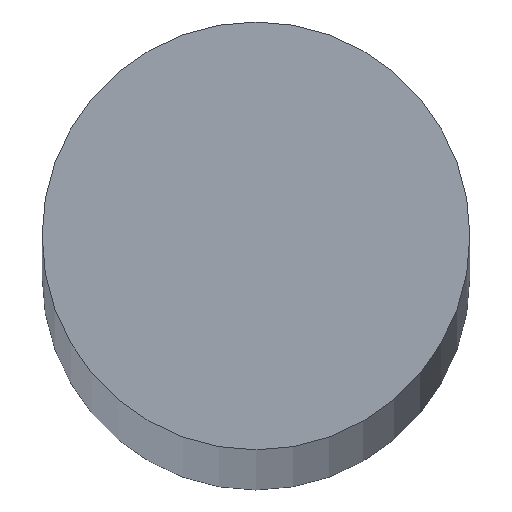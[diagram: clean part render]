
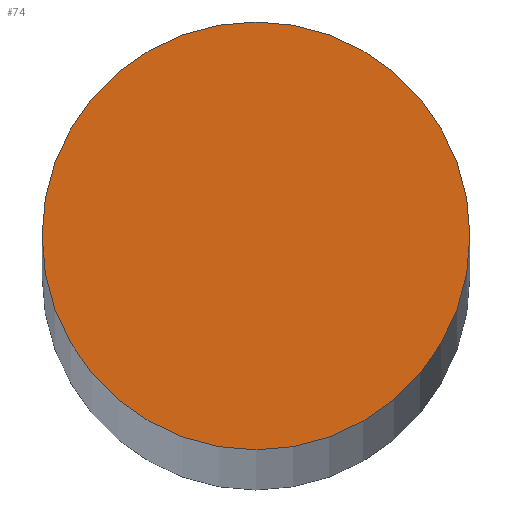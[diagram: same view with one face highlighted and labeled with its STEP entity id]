
A CAD part, top view. The second image highlights one B-rep face of the part: STEP entity #74.
In plain terms, the highlighted planar face has unit normal (0, 0, 1).
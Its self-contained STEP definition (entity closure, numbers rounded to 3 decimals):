
#3 = VERTEX_POINT ( 'NONE', #5 ) ;
#4 = PLANE ( 'NONE',  #125 ) ;
#5 = CARTESIAN_POINT ( 'NONE',  ( 6., 0., 322.5 ) ) ;
#6 = CARTESIAN_POINT ( 'NONE',  ( -6., 0., 322.5 ) ) ;
#9 = VERTEX_POINT ( 'NONE', #6 ) ;
#19 = CARTESIAN_POINT ( 'NONE',  ( 0., 0., 322.5 ) ) ;
#31 = CARTESIAN_POINT ( 'NONE',  ( 0., 0., 322.5 ) ) ;
#32 = DIRECTION ( 'NONE',  ( 0., 0., 1. ) ) ;
#33 = DIRECTION ( 'NONE',  ( 0., 0., 1. ) ) ;
#34 = DIRECTION ( 'NONE',  ( 1., 0., 0. ) ) ;
#35 = DIRECTION ( 'NONE',  ( 1., 0., 0. ) ) ;
#38 = CARTESIAN_POINT ( 'NONE',  ( 0., 0., 322.5 ) ) ;
#40 = DIRECTION ( 'NONE',  ( 0., 0., 1. ) ) ;
#41 = DIRECTION ( 'NONE',  ( 1., 0., 0. ) ) ;
#74 = ADVANCED_FACE ( 'NONE', ( #77 ), #4, .T. ) ;
#77 = FACE_OUTER_BOUND ( 'NONE', #79, .T. ) ;
#79 = EDGE_LOOP ( 'NONE', ( #92, #91 ) ) ;
#91 = ORIENTED_EDGE ( 'NONE', *, *, #120, .T. ) ;
#92 = ORIENTED_EDGE ( 'NONE', *, *, #127, .T. ) ;
#105 = CIRCLE ( 'NONE', #140, 6. ) ;
#109 = CIRCLE ( 'NONE', #132, 6. ) ;
#120 = EDGE_CURVE ( 'NONE', #3, #9, #105, .T. ) ;
#125 = AXIS2_PLACEMENT_3D ( 'NONE', #19, #33, #34 ) ;
#127 = EDGE_CURVE ( 'NONE', #9, #3, #109, .T. ) ;
#132 = AXIS2_PLACEMENT_3D ( 'NONE', #38, #40, #41 ) ;
#140 = AXIS2_PLACEMENT_3D ( 'NONE', #31, #32, #35 ) ;
